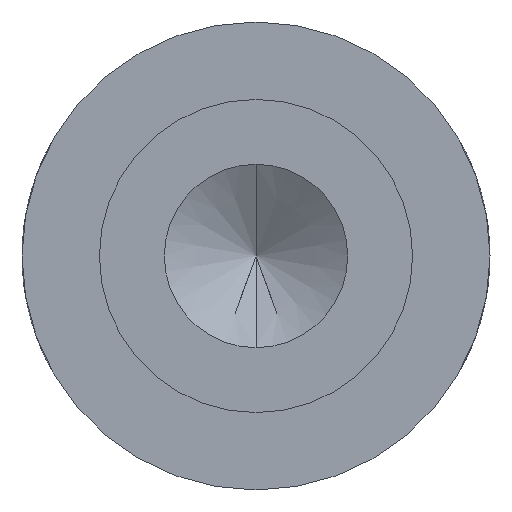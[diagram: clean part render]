
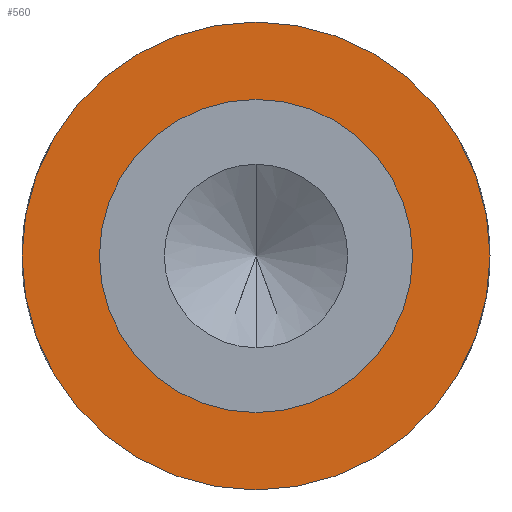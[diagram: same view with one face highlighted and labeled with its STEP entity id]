
A CAD part, left-side view. The second image highlights one B-rep face of the part: STEP entity #560.
In plain terms, the highlighted planar face has unit normal (-1, 0, 0).
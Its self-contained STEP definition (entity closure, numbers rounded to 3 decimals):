
#42 = DIRECTION ( 'NONE',  ( 0., 1., 0. ) ) ;
#43 = DIRECTION ( 'NONE',  ( 1., 0., 0. ) ) ;
#44 = CARTESIAN_POINT ( 'NONE',  ( -77.672, 2.524, 0. ) ) ;
#45 = AXIS2_PLACEMENT_3D ( 'NONE', #44, #43, #42 ) ;
#46 = CIRCLE ( 'NONE', #45, 6.35 ) ;
#102 = CARTESIAN_POINT ( 'NONE',  ( -77.672, -3.826, 0. ) ) ;
#136 = CARTESIAN_POINT ( 'NONE',  ( -77.672, 8.874, 0. ) ) ;
#307 = FACE_OUTER_BOUND ( 'NONE', #561, .T. ) ;
#352 = DIRECTION ( 'NONE',  ( 0., 1., 0. ) ) ;
#438 = AXIS2_PLACEMENT_3D ( 'NONE', #538, #537, #536 ) ;
#439 = PLANE ( 'NONE',  #438 ) ;
#440 = DIRECTION ( 'NONE',  ( 1., 0., 0. ) ) ;
#441 = CARTESIAN_POINT ( 'NONE',  ( -77.672, 2.524, 0. ) ) ;
#442 = AXIS2_PLACEMENT_3D ( 'NONE', #441, #440, #352 ) ;
#443 = CIRCLE ( 'NONE', #442, 6.35 ) ;
#466 = DIRECTION ( 'NONE',  ( 0., 0., -1. ) ) ;
#467 = DIRECTION ( 'NONE',  ( 1., 0., 0. ) ) ;
#468 = CARTESIAN_POINT ( 'NONE',  ( -77.672, 2.524, 0. ) ) ;
#487 = CARTESIAN_POINT ( 'NONE',  ( -77.672, 2.524, -4.25 ) ) ;
#488 = CARTESIAN_POINT ( 'NONE',  ( -77.672, 2.524, 4.25 ) ) ;
#489 = DIRECTION ( 'NONE',  ( 0., 0., -1. ) ) ;
#490 = DIRECTION ( 'NONE',  ( 1., 0., 0. ) ) ;
#491 = CARTESIAN_POINT ( 'NONE',  ( -77.672, 2.524, 0. ) ) ;
#492 = AXIS2_PLACEMENT_3D ( 'NONE', #491, #490, #489 ) ;
#493 = CIRCLE ( 'NONE', #492, 4.25 ) ;
#520 = AXIS2_PLACEMENT_3D ( 'NONE', #468, #467, #466 ) ;
#525 = CIRCLE ( 'NONE', #520, 4.25 ) ;
#536 = DIRECTION ( 'NONE',  ( 0., -1., 0. ) ) ;
#537 = DIRECTION ( 'NONE',  ( -1., 0., 0. ) ) ;
#538 = CARTESIAN_POINT ( 'NONE',  ( -77.672, 5.699, 0. ) ) ;
#540 = FACE_BOUND ( 'NONE', #565, .T. ) ;
#560 = ADVANCED_FACE ( 'NONE', ( #307, #540 ), #439, .T. ) ;
#561 = EDGE_LOOP ( 'NONE', ( #562, #563 ) ) ;
#562 = ORIENTED_EDGE ( 'NONE', *, *, #725, .F. ) ;
#563 = ORIENTED_EDGE ( 'NONE', *, *, #564, .F. ) ;
#564 = EDGE_CURVE ( 'NONE', #723, #721, #443, .T. ) ;
#565 = EDGE_LOOP ( 'NONE', ( #566, #567 ) ) ;
#566 = ORIENTED_EDGE ( 'NONE', *, *, #591, .T. ) ;
#567 = ORIENTED_EDGE ( 'NONE', *, *, #640, .T. ) ;
#591 = EDGE_CURVE ( 'NONE', #642, #641, #525, .T. ) ;
#640 = EDGE_CURVE ( 'NONE', #641, #642, #493, .T. ) ;
#641 = VERTEX_POINT ( 'NONE', #488 ) ;
#642 = VERTEX_POINT ( 'NONE', #487 ) ;
#721 = VERTEX_POINT ( 'NONE', #136 ) ;
#723 = VERTEX_POINT ( 'NONE', #102 ) ;
#725 = EDGE_CURVE ( 'NONE', #721, #723, #46, .T. ) ;
